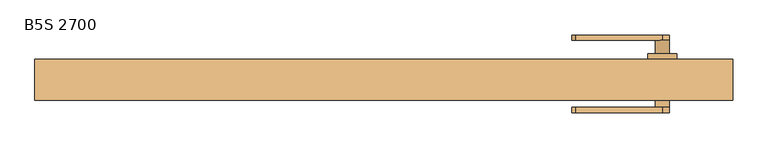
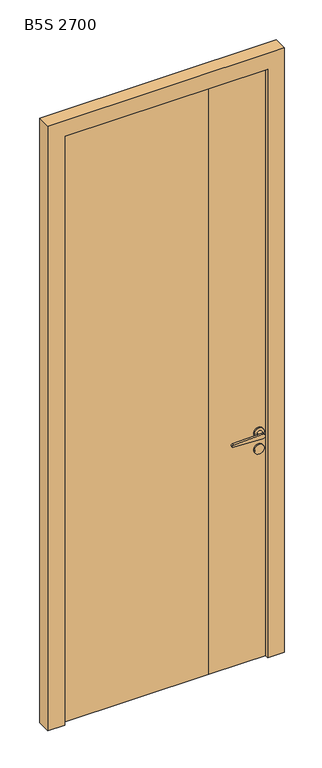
"""IFC4 building model written with IfcOpenShell, lengths in millimetres: door geometry, Mobiliário_Mobiliário de Escritório_Porta de Giro Emoldurada - BS_Marelli : B5S 2700."""

from ifc_helpers import new_model, si_unit, point, frame, frame_2d, origin, place, context, project, spatial, polyline, circle_curve, trimmed, segment, composite_curve, outline, extrude, faceted_brep, source, transform, mapped, element, save
from ifc_brep_helpers import plane_surface, cylinder_surface, advanced_brep


def b5s_2700_1f91ca55(model_context):
    return source(origin(), model_context, "Body", "SolidModel", [
        extrude(outline(polyline([(-447.5, 16.5), (152.5, 16.5), (447.5, 16.5), (447.5, -25.5), (190.5, -25.5), (-447.5, -25.5), (-447.5, 16.5)])), frame((0.0, 0.0, 0.2), z_axis=(0.0, 0.0, 1.0), x_axis=(1.0, 0.0, 0.0)), (0.0, 0.0, 1.0), 2648.3),
        faceted_brep([(-500.0, -42.5, 0.0), (-500.0, 16.5, 0.0), (-450.0, 16.5, 0.0), (-450.0, -27.0, 0.0), (-429.0, -27.0, 0.0), (-429.0, -42.5, 0.0), (500.0, -42.5, 0.0), (429.0, -42.5, 0.0), (429.0, -27.0, 0.0), (450.0, -27.0, 0.0), (450.0, 16.5, 0.0), (500.0, 16.5, 0.0), (-500.0, -42.5, 2700.0), (-500.0, 16.5, 2700.0), (500.0, 16.5, 2700.0), (450.0, 16.5, 2650.0), (-450.0, 16.5, 2650.0), (-450.0, -27.0, 2650.0), (450.0, -27.0, 2650.0), (429.0, -27.0, 2629.0), (-429.0, -27.0, 2629.0), (-429.0, -42.5, 2629.0), (500.0, -42.5, 2700.0), (429.0, -42.5, 2629.0)], [[[0, 1, 2, 3, 4, 5]], [[6, 7, 8, 9, 10, 11]], [[0, 12, 13, 1]], [[13, 14, 11, 10, 15, 16, 2, 1]], [[17, 3, 2, 16]], [[4, 3, 17, 18, 9, 8, 19, 20]], [[5, 4, 20, 21]], [[22, 12, 0, 5, 21, 23, 7, 6]], [[8, 7, 23, 19]], [[10, 9, 18, 15]], [[14, 22, 6, 11]], [[22, 14, 13, 12]], [[20, 19, 23, 21]], [[16, 15, 18, 17]]]),
        extrude(outline(composite_curve([segment(trimmed(circle_curve(frame_2d((936.55, 399.5)), 20.75), [point((936.55, 378.75))], [point((936.55, 420.25))], False, "CARTESIAN"), True, "CONTINUOUS"), segment(trimmed(circle_curve(frame_2d((936.55, 399.5)), 20.75), [point((936.55, 420.25))], [point((936.55, 378.75))], False, "CARTESIAN"), True, "CONTINUOUS")], self_intersect=False)), frame((0.0, 16.5, 0.0), z_axis=(0.0, 1.0, 0.0), x_axis=(0.0, 0.0, 1.0)), (0.0, 0.0, 1.0), 8.0),
        extrude(outline(composite_curve([segment(trimmed(circle_curve(frame_2d((936.55, 399.5)), 20.75), [point((936.55, 378.75))], [point((936.55, 420.25))], False, "CARTESIAN"), True, "CONTINUOUS"), segment(trimmed(circle_curve(frame_2d((936.55, 399.5)), 20.75), [point((936.55, 420.25))], [point((936.55, 378.75))], False, "CARTESIAN"), True, "CONTINUOUS")], self_intersect=False)), frame((0.0, -33.5, 0.0), z_axis=(0.0, 1.0, 0.0), x_axis=(0.0, 0.0, 1.0)), (0.0, 0.0, 1.0), 8.0),
        extrude(outline(composite_curve([segment(trimmed(circle_curve(frame_2d((1010.25, 399.5)), 20.75), [point((1010.25, 378.75))], [point((1010.25, 420.25))], False, "CARTESIAN"), True, "CONTINUOUS"), segment(trimmed(circle_curve(frame_2d((1010.25, 399.5)), 20.75), [point((1010.25, 420.25))], [point((1010.25, 378.75))], False, "CARTESIAN"), True, "CONTINUOUS")], self_intersect=False)), frame((0.0, -33.5, 0.0), z_axis=(0.0, 1.0, 0.0), x_axis=(0.0, 0.0, 1.0)), (0.0, 0.0, 1.0), 8.0),
        extrude(outline(composite_curve([segment(trimmed(circle_curve(frame_2d((1010.25, 399.5)), 20.75), [point((1010.25, 378.75))], [point((1010.25, 420.25))], False, "CARTESIAN"), True, "CONTINUOUS"), segment(trimmed(circle_curve(frame_2d((1010.25, 399.5)), 20.75), [point((1010.25, 420.25))], [point((1010.25, 378.75))], False, "CARTESIAN"), True, "CONTINUOUS")], self_intersect=False)), frame((0.0, 16.5, 0.0), z_axis=(0.0, 1.0, 0.0), x_axis=(0.0, 0.0, 1.0)), (0.0, 0.0, 1.0), 8.0),
        advanced_brep(
        [(389.5, 24.5, 1010.25), (409.5, 24.5, 1010.25), (409.5, 43.5, 1010.25), (399.0996794, 43.5, 1020.241984), (389.5, 43.5, 1010.25), (399.0996794, 43.5, 1000.258016), (274.5, 43.5, 1015.25), (274.5, 43.5, 1005.25), (399.0996794, 51.15, 1000.258016), (274.5, 51.15, 1005.25), (274.5, 51.15, 1015.25), (399.0996794, 51.15, 1020.241984)],
        [
            (0, 1, circle_curve(frame((399.5, 24.5, 1010.25), z_axis=(0.0, -1.0, 0.0), x_axis=(1.0, 0.0, 0.0)), 10.0)),
            (1, 0, circle_curve(frame((399.5, 24.5, 1010.25), z_axis=(0.0, -1.0, 0.0), x_axis=(1.0, 0.0, 0.0)), 10.0)),
            (1, 2),
            (2, 3, circle_curve(frame((399.5, 43.5, 1010.25), z_axis=(0.0, -1.0, 0.0), x_axis=(1.0, 0.0, 0.0)), 10.0)),
            (3, 4, circle_curve(frame((399.5, 43.5, 1010.25), z_axis=(0.0, -1.0, 0.0), x_axis=(1.0, 0.0, 0.0)), 10.0)),
            (4, 0),
            (4, 5, circle_curve(frame((399.5, 43.5, 1010.25), z_axis=(0.0, -1.0, 0.0), x_axis=(1.0, 0.0, 0.0)), 10.0)),
            (5, 2, circle_curve(frame((399.5, 43.5, 1010.25), z_axis=(0.0, -1.0, 0.0), x_axis=(1.0, 0.0, 0.0)), 10.0)),
            (3, 6),
            (6, 7, circle_curve(frame((274.5, 43.5, 1010.25), z_axis=(0.0, -1.0, 0.0), x_axis=(1.0, 0.0, 0.0)), 5.0)),
            (7, 5),
            (8, 9),
            (9, 10, circle_curve(frame((274.5, 51.15, 1010.25), z_axis=(0.0, 1.0, 0.0), x_axis=(1.0, 0.0, 0.0)), 5.0)),
            (10, 11),
            (11, 8, circle_curve(frame((399.5, 51.15, 1010.25), z_axis=(0.0, 1.0, 0.0), x_axis=(1.0, 0.0, 0.0)), 10.0)),
            (7, 9),
            (8, 5),
            (6, 10),
            (3, 11),
        ],
        [
            plane_surface(frame((409.5, 24.5, 1010.25), z_axis=(0.0, -1.0, 0.0), x_axis=(0.0, 0.0, 1.0))),
            cylinder_surface(frame((399.5, 24.5, 1010.25), z_axis=(0.0, 1.0, 0.0), x_axis=(1.0, 0.0, 0.0)), 10.0),
            plane_surface(frame((399.0996794, 43.5, 1000.258016), z_axis=(0.0, -1.0, 0.0), x_axis=(0.9991983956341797, 0.0, -0.04003206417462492))),
            plane_surface(frame((399.0996794, 51.15, 1000.258016), z_axis=(0.0, 1.0, 0.0), x_axis=(-0.9991983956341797, 0.0, 0.04003206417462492))),
            plane_surface(frame((399.0996794, 51.15, 1000.258016), z_axis=(-0.04003206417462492, 0.0, -0.9991983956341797), x_axis=(0.0, -1.0, 0.0))),
            cylinder_surface(frame((274.5, 43.5, 1010.25), z_axis=(0.0, 1.0, 0.0), x_axis=(1.0, 0.0, 0.0)), 5.0),
            plane_surface(frame((274.5, 51.15, 1015.25), z_axis=(-0.04003206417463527, 0.0, 0.9991983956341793), x_axis=(0.0, -1.0, 0.0))),
            cylinder_surface(frame((399.5, 43.5, 1010.25), z_axis=(0.0, 1.0, 0.0), x_axis=(1.0, 0.0, 0.0)), 10.0),
        ],
        [
            (0, [[1, 2]]),
            (1, [[-2, 3, 4, 5, 6]]),
            (1, [[-1, -6, 7, 8, -3]]),
            (2, [[9, 10, 11, -7, -5]]),
            (3, [[12, 13, 14, 15]]),
            (4, [[-11, 16, -12, 17]]),
            (5, [[-10, 18, -13, -16]]),
            (6, [[-9, 19, -14, -18]]),
            (7, [[-15, -19, -4, -8, -17]]),
        ],
    ),
        advanced_brep(
        [(399.0996794, -52.5, 1000.258016), (274.5, -52.5, 1005.25), (274.5, -52.5, 1015.25), (399.0996794, -52.5, 1020.241984), (389.5, -52.5, 1010.25), (399.0996794, -60.15, 1000.258016), (399.0996794, -60.15, 1020.241984), (274.5, -60.15, 1015.25), (274.5, -60.15, 1005.25), (409.5, -52.5, 1010.25), (389.5, -33.5, 1010.25), (409.5, -33.5, 1010.25)],
        [
            (0, 1),
            (1, 2, circle_curve(frame((274.5, -52.5, 1010.25), z_axis=(0.0, 1.0, 0.0), x_axis=(1.0, 0.0, 0.0)), 5.0)),
            (2, 3),
            (3, 4, circle_curve(frame((399.5, -52.5, 1010.25), z_axis=(0.0, -1.0, 0.0), x_axis=(1.0, 0.0, 0.0)), 10.0)),
            (4, 0, circle_curve(frame((399.5, -52.5, 1010.25), z_axis=(0.0, -1.0, 0.0), x_axis=(1.0, 0.0, 0.0)), 10.0)),
            (5, 6, circle_curve(frame((399.5, -60.15, 1010.25), z_axis=(0.0, -1.0, 0.0), x_axis=(1.0, 0.0, 0.0)), 10.0)),
            (6, 7),
            (7, 8, circle_curve(frame((274.5, -60.15, 1010.25), z_axis=(0.0, -1.0, 0.0), x_axis=(1.0, 0.0, 0.0)), 5.0)),
            (8, 5),
            (0, 5),
            (8, 1),
            (7, 2),
            (6, 3),
            (0, 9, circle_curve(frame((399.5, -52.5, 1010.25), z_axis=(0.0, -1.0, 0.0), x_axis=(1.0, 0.0, 0.0)), 10.0)),
            (9, 3, circle_curve(frame((399.5, -52.5, 1010.25), z_axis=(0.0, -1.0, 0.0), x_axis=(1.0, 0.0, 0.0)), 10.0)),
            (10, 11, circle_curve(frame((399.5, -33.5, 1010.25), z_axis=(0.0, 1.0, 0.0), x_axis=(1.0, 0.0, 0.0)), 10.0)),
            (11, 10, circle_curve(frame((399.5, -33.5, 1010.25), z_axis=(0.0, 1.0, 0.0), x_axis=(1.0, 0.0, 0.0)), 10.0)),
            (10, 4),
            (9, 11),
        ],
        [
            plane_surface(frame((409.5, -52.5, 1010.25), z_axis=(0.0, 1.0, 0.0), x_axis=(0.0, 0.0, -1.0))),
            plane_surface(frame((409.5, -60.15, 1010.25), z_axis=(0.0, -1.0, 0.0), x_axis=(0.0, 0.0, 1.0))),
            plane_surface(frame((274.5, -60.15, 1005.25), z_axis=(-0.04003206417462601, 0.0, -0.9991983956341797), x_axis=(0.0, 1.0, 0.0))),
            cylinder_surface(frame((274.5, -52.5, 1010.25), z_axis=(0.0, -1.0, 0.0), x_axis=(1.0, 0.0, 0.0)), 5.0),
            plane_surface(frame((399.0996794, -60.15, 1020.241984), z_axis=(-0.04003206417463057, 0.0, 0.9991983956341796), x_axis=(0.0, 1.0, 0.0))),
            cylinder_surface(frame((399.5, -52.5, 1010.25), z_axis=(0.0, -1.0, 0.0), x_axis=(1.0, 0.0, 0.0)), 10.0),
            plane_surface(frame((409.5, -33.5, 1010.25), z_axis=(0.0, 1.0, 0.0), x_axis=(0.0, 0.0, -1.0))),
            cylinder_surface(frame((399.5, -33.5, 1010.25), z_axis=(0.0, -1.0, 0.0), x_axis=(1.0, 0.0, 0.0)), 10.0),
        ],
        [
            (0, [[1, 2, 3, 4, 5]]),
            (1, [[6, 7, 8, 9]]),
            (2, [[-1, 10, -9, 11]]),
            (3, [[-2, -11, -8, 12]]),
            (4, [[-3, -12, -7, 13]]),
            (5, [[-6, -10, 14, 15, -13]]),
            (6, [[16, 17]]),
            (7, [[-16, 18, -4, -15, 19]]),
            (7, [[-17, -19, -14, -5, -18]]),
        ],
    ),
    ])


if __name__ == "__main__":
    model = new_model("IFC4")
    model_context = context("Model", 3, world=origin())
    ifc_project = project(units=[si_unit("LENGTHUNIT", "METRE", prefix="MILLI")], contexts=[model_context])
    site = spatial("IfcSite", under=ifc_project)
    building = spatial("IfcBuilding", under=site)
    placement = place(None, origin())
    b5s_2700_shape = b5s_2700_1f91ca55(model_context)
    element("IfcDoor", 1, ObjectType="Mobiliário_Mobiliário de Escritório_Porta de Giro Emoldurada - BS_Marelli : B5S 2700", at=placement, inside=building, context=model_context, shape_type="MappedRepresentation", body=[
        mapped(b5s_2700_shape, transform((0.0, 0.0, 0.0), x_axis=(1.0, 0.0, 0.0), y_axis=(0.0, 1.0, 0.0), z_axis=(0.0, 0.0, 1.0))),
    ])
    save(model, "model.ifc")
